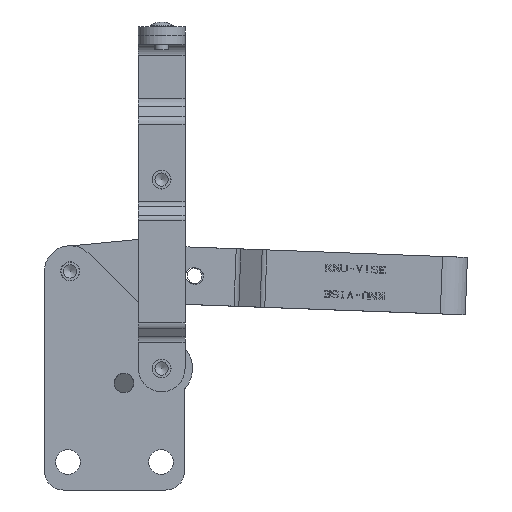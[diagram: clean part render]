
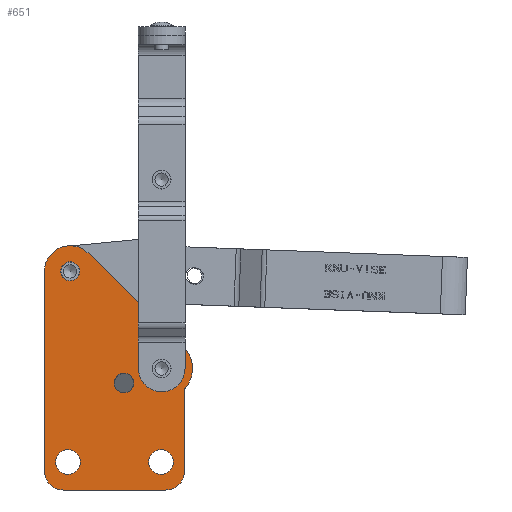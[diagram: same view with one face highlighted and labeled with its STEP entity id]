
A CAD part, front view. The second image highlights one B-rep face of the part: STEP entity #651.
In plain terms, the highlighted planar face has unit normal (0, -1, 0).
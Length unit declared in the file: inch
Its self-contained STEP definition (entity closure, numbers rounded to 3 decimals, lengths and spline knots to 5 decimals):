
#651=ADVANCED_FACE('',(#14693,#14694,#4147,#14695,#14696,#14697),#2537,.T.);
#2537=PLANE('',#35954);
#4147=FACE_OUTER_BOUND('',#15201,.T.);
#5917=LINE('',#47464,#10305);
#5918=LINE('',#47468,#10306);
#5919=LINE('',#47472,#10307);
#5920=LINE('',#47476,#10308);
#10305=VECTOR('',#38326,1.);
#10306=VECTOR('',#38329,1.);
#10307=VECTOR('',#38332,1.);
#10308=VECTOR('',#38335,1.);
#14693=FACE_BOUND('',#15199,.T.);
#14694=FACE_BOUND('',#15200,.T.);
#14695=FACE_BOUND('',#15202,.T.);
#14696=FACE_BOUND('',#15203,.T.);
#14697=FACE_BOUND('',#15204,.T.);
#15199=EDGE_LOOP('',(#17455));
#15200=EDGE_LOOP('',(#17456));
#15201=EDGE_LOOP('',(#17457,#17458,#17459,#17460,#17461,#17462,#17463,#17464,
#17465));
#15202=EDGE_LOOP('',(#17466));
#15203=EDGE_LOOP('',(#17467));
#15204=EDGE_LOOP('',(#17468));
#17455=ORIENTED_EDGE('',*,*,#30567,.T.);
#17456=ORIENTED_EDGE('',*,*,#30568,.T.);
#17457=ORIENTED_EDGE('',*,*,#30569,.F.);
#17458=ORIENTED_EDGE('',*,*,#30570,.T.);
#17459=ORIENTED_EDGE('',*,*,#30571,.F.);
#17460=ORIENTED_EDGE('',*,*,#30572,.T.);
#17461=ORIENTED_EDGE('',*,*,#30573,.F.);
#17462=ORIENTED_EDGE('',*,*,#30574,.T.);
#17463=ORIENTED_EDGE('',*,*,#30575,.F.);
#17464=ORIENTED_EDGE('',*,*,#30576,.F.);
#17465=ORIENTED_EDGE('',*,*,#30577,.F.);
#17466=ORIENTED_EDGE('',*,*,#30578,.T.);
#17467=ORIENTED_EDGE('',*,*,#30579,.T.);
#17468=ORIENTED_EDGE('',*,*,#30580,.F.);
#27223=VERTEX_POINT('',#47458);
#27224=VERTEX_POINT('',#47460);
#27225=VERTEX_POINT('',#47462);
#27226=VERTEX_POINT('',#47463);
#27227=VERTEX_POINT('',#47465);
#27228=VERTEX_POINT('',#47467);
#27229=VERTEX_POINT('',#47469);
#27230=VERTEX_POINT('',#47471);
#27231=VERTEX_POINT('',#47473);
#27232=VERTEX_POINT('',#47475);
#27233=VERTEX_POINT('',#47477);
#27234=VERTEX_POINT('',#47480);
#27235=VERTEX_POINT('',#47482);
#27236=VERTEX_POINT('',#47484);
#30567=EDGE_CURVE('',#27223,#27223,#35451,.T.);
#30568=EDGE_CURVE('',#27224,#27224,#35452,.T.);
#30569=EDGE_CURVE('',#27225,#27226,#35453,.T.);
#30570=EDGE_CURVE('',#27225,#27227,#5917,.T.);
#30571=EDGE_CURVE('',#27228,#27227,#35454,.T.);
#30572=EDGE_CURVE('',#27228,#27229,#5918,.T.);
#30573=EDGE_CURVE('',#27230,#27229,#35455,.T.);
#30574=EDGE_CURVE('',#27230,#27231,#5919,.T.);
#30575=EDGE_CURVE('',#27232,#27231,#35456,.T.);
#30576=EDGE_CURVE('',#27233,#27232,#5920,.T.);
#30577=EDGE_CURVE('',#27226,#27233,#35457,.T.);
#30578=EDGE_CURVE('',#27234,#27234,#35458,.T.);
#30579=EDGE_CURVE('',#27235,#27235,#35459,.T.);
#30580=EDGE_CURVE('',#27236,#27236,#35460,.T.);
#35451=CIRCLE('',#35944,0.165);
#35452=CIRCLE('',#35945,0.165);
#35453=CIRCLE('',#35946,0.413);
#35454=CIRCLE('',#35947,0.343);
#35455=CIRCLE('',#35948,0.25);
#35456=CIRCLE('',#35949,0.25);
#35457=CIRCLE('',#35950,0.03125);
#35458=CIRCLE('',#35951,0.189);
#35459=CIRCLE('',#35952,0.1265);
#35460=CIRCLE('',#35953,0.13);
#35944=AXIS2_PLACEMENT_3D('',#47457,#38320,#38321);
#35945=AXIS2_PLACEMENT_3D('',#47459,#38322,#38323);
#35946=AXIS2_PLACEMENT_3D('',#47461,#38324,#38325);
#35947=AXIS2_PLACEMENT_3D('',#47466,#38327,#38328);
#35948=AXIS2_PLACEMENT_3D('',#47470,#38330,#38331);
#35949=AXIS2_PLACEMENT_3D('',#47474,#38333,#38334);
#35950=AXIS2_PLACEMENT_3D('',#47478,#38336,#38337);
#35951=AXIS2_PLACEMENT_3D('',#47479,#38338,#38339);
#35952=AXIS2_PLACEMENT_3D('',#47481,#38340,#38341);
#35953=AXIS2_PLACEMENT_3D('',#47483,#38342,#38343);
#35954=AXIS2_PLACEMENT_3D('',#47485,#38344,#38345);
#38320=DIRECTION('',(0.,1.,0.));
#38321=DIRECTION('',(0.,0.,1.));
#38322=DIRECTION('',(0.,1.,0.));
#38323=DIRECTION('',(0.,0.,1.));
#38324=DIRECTION('',(0.,1.,0.));
#38325=DIRECTION('',(-1.,0.,0.));
#38326=DIRECTION('',(-0.714,0.,0.701));
#38327=DIRECTION('',(0.,1.,0.));
#38328=DIRECTION('',(-1.,0.,0.));
#38329=DIRECTION('',(0.,0.,-1.));
#38330=DIRECTION('',(0.,1.,0.));
#38331=DIRECTION('',(0.,0.,1.));
#38332=DIRECTION('',(1.,0.,0.));
#38333=DIRECTION('',(0.,1.,0.));
#38334=DIRECTION('',(0.,0.,1.));
#38335=DIRECTION('',(0.,0.,-1.));
#38336=DIRECTION('',(0.,-1.,0.));
#38337=DIRECTION('',(0.,0.,1.));
#38338=DIRECTION('',(0.,1.,0.));
#38339=DIRECTION('',(-1.,0.,0.));
#38340=DIRECTION('',(0.,1.,0.));
#38341=DIRECTION('',(-1.,0.,0.));
#38342=DIRECTION('',(0.,-1.,0.));
#38343=DIRECTION('',(0.,0.,1.));
#38344=DIRECTION('',(0.,-1.,0.));
#38345=DIRECTION('',(0.,0.,1.));
#47457=CARTESIAN_POINT('',(-0.008,-0.2786,-1.254));
#47458=CARTESIAN_POINT('',(-0.008,-0.2786,-1.089));
#47459=CARTESIAN_POINT('',(-1.257,-0.2786,-1.254));
#47460=CARTESIAN_POINT('',(-1.257,-0.2786,-1.089));
#47461=CARTESIAN_POINT('',(0.,-0.2786,0.));
#47462=CARTESIAN_POINT('',(0.28937,-0.2786,0.29468));
#47463=CARTESIAN_POINT('',(0.3126,-0.2786,-0.26991));
#47464=CARTESIAN_POINT('',(0.28937,-0.2786,0.29468));
#47465=CARTESIAN_POINT('',(-0.98668,-0.2786,1.54773));
#47466=CARTESIAN_POINT('',(-1.227,-0.2786,1.303));
#47467=CARTESIAN_POINT('',(-1.57,-0.2786,1.303));
#47468=CARTESIAN_POINT('',(-1.57,-0.2786,1.303));
#47469=CARTESIAN_POINT('',(-1.57,-0.2786,-1.379));
#47470=CARTESIAN_POINT('',(-1.32,-0.2786,-1.379));
#47471=CARTESIAN_POINT('',(-1.32,-0.2786,-1.629));
#47472=CARTESIAN_POINT('',(-1.57,-0.2786,-1.629));
#47473=CARTESIAN_POINT('',(0.055,-0.2786,-1.629));
#47474=CARTESIAN_POINT('',(0.055,-0.2786,-1.379));
#47475=CARTESIAN_POINT('',(0.305,-0.2786,-1.379));
#47476=CARTESIAN_POINT('',(0.305,-0.2786,-0.27847));
#47477=CARTESIAN_POINT('',(0.305,-0.2786,-0.29033));
#47478=CARTESIAN_POINT('',(0.33625,-0.2786,-0.29033));
#47479=CARTESIAN_POINT('',(0.,-0.2786,0.));
#47480=CARTESIAN_POINT('',(-0.189,-0.2786,0.));
#47481=CARTESIAN_POINT('',(-1.227,-0.2786,1.303));
#47482=CARTESIAN_POINT('',(-1.3535,-0.2786,1.303));
#47483=CARTESIAN_POINT('',(-0.506,-0.2786,-0.195));
#47484=CARTESIAN_POINT('',(-0.506,-0.2786,-0.325));
#47485=CARTESIAN_POINT('',(0.,-0.2786,0.));
